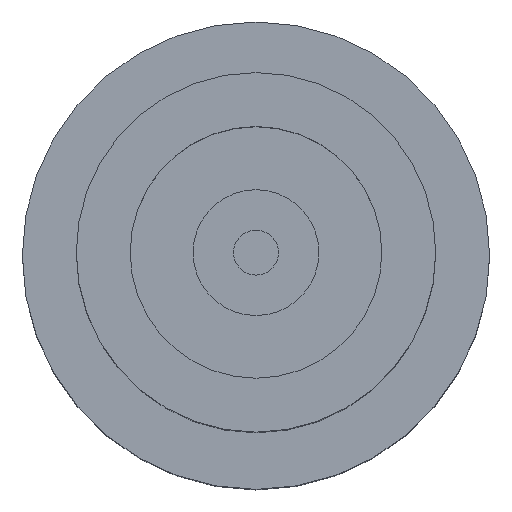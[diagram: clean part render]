
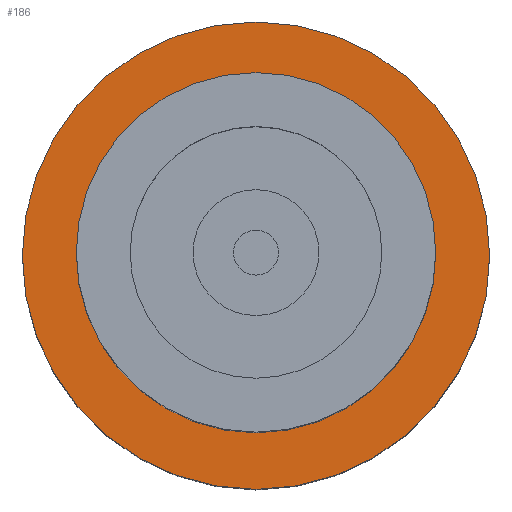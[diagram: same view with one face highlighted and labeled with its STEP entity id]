
A CAD part, top view. The second image highlights one B-rep face of the part: STEP entity #186.
In plain terms, the highlighted planar face has unit normal (0, 0, 1).
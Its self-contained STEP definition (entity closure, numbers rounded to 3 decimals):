
#186=ADVANCED_FACE('',(#379,#380),#381,.T.);
#379=FACE_BOUND('',#621,.T.);
#380=FACE_OUTER_BOUND('',#622,.T.);
#381=PLANE('',#623);
#621=EDGE_LOOP('',(#932,#933));
#622=EDGE_LOOP('',(#934,#935));
#623=AXIS2_PLACEMENT_3D('',#936,#937,#938);
#932=ORIENTED_EDGE('',*,*,#1333,.F.);
#933=ORIENTED_EDGE('',*,*,#1294,.F.);
#934=ORIENTED_EDGE('',*,*,#1338,.T.);
#935=ORIENTED_EDGE('',*,*,#1343,.T.);
#936=CARTESIAN_POINT('',(4.55,0.0,0.0));
#937=DIRECTION('',(0.0,0.0,1.0));
#938=DIRECTION('',(1.0,0.0,0.0));
#1294=EDGE_CURVE('',#1517,#1512,#1519,.T.);
#1333=EDGE_CURVE('',#1512,#1517,#1578,.T.);
#1338=EDGE_CURVE('',#1581,#1583,#1585,.T.);
#1343=EDGE_CURVE('',#1583,#1581,#1590,.T.);
#1512=VERTEX_POINT('',#1791);
#1517=VERTEX_POINT('',#1797);
#1519=CIRCLE('',#1800,3.9);
#1578=CIRCLE('',#1869,3.9);
#1581=VERTEX_POINT('',#1872);
#1583=VERTEX_POINT('',#1875);
#1585=CIRCLE('',#1878,5.2);
#1590=CIRCLE('',#1883,5.2);
#1791=CARTESIAN_POINT('',(3.9,0.0,0.0));
#1797=CARTESIAN_POINT('',(-3.9,0.,0.0));
#1800=AXIS2_PLACEMENT_3D('',#2091,#2092,#2093);
#1869=AXIS2_PLACEMENT_3D('',#2158,#2159,#2160);
#1872=CARTESIAN_POINT('',(5.2,0.0,0.0));
#1875=CARTESIAN_POINT('',(-5.2,0.,0.0));
#1878=AXIS2_PLACEMENT_3D('',#2166,#2167,#2168);
#1883=AXIS2_PLACEMENT_3D('',#2172,#2173,#2174);
#2091=CARTESIAN_POINT('',(0.0,0.0,0.0));
#2092=DIRECTION('',(0.0,0.0,1.0));
#2093=DIRECTION('',(1.0,0.0,0.0));
#2158=CARTESIAN_POINT('',(0.0,0.0,0.0));
#2159=DIRECTION('',(0.0,0.0,1.0));
#2160=DIRECTION('',(1.0,0.0,0.0));
#2166=CARTESIAN_POINT('',(0.0,0.0,0.0));
#2167=DIRECTION('',(0.0,0.0,1.0));
#2168=DIRECTION('',(1.0,0.0,0.0));
#2172=CARTESIAN_POINT('',(0.0,0.0,0.0));
#2173=DIRECTION('',(0.0,0.0,1.0));
#2174=DIRECTION('',(1.0,0.0,0.0));
